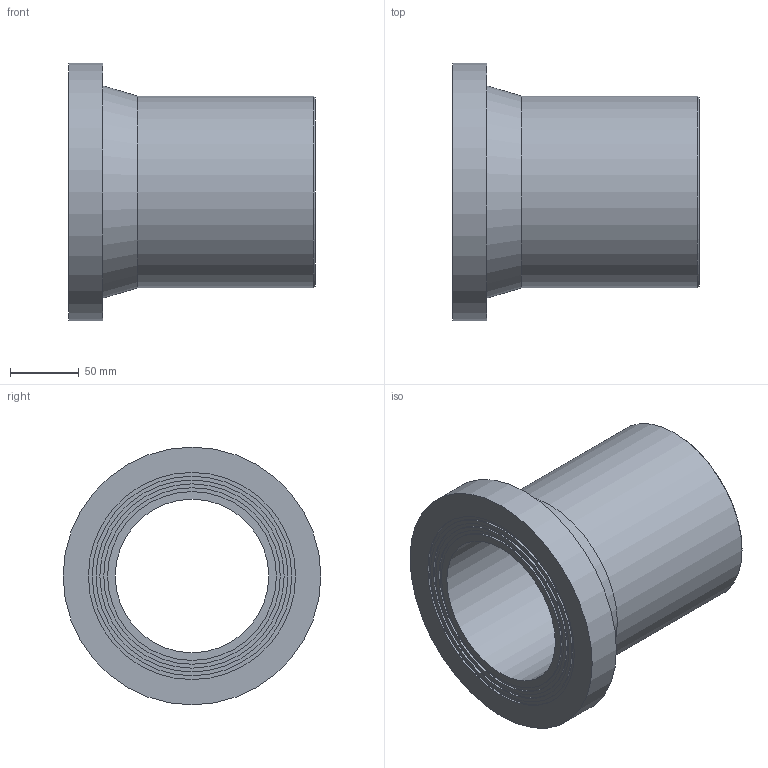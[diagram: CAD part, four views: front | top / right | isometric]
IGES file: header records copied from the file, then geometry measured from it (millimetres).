
Global section: file name: 490207140.ipt; native system: Autodesk Inventor 2015; preprocessor: unknown; author: Кирилл,,11,0; organization: 20170718.095537; date: 20190331.185821; units: millimetre
Bounding box: 180 x 188 x 188 mm (x, y, z)
Volume: 1343860.2 mm3; surface area: 182967.8 mm2
Topology: 1 solids, 1 shells, 20 faces, 33 edges, 22 vertices
Faces by surface type: plane 9, cylinder 5, revolution 4, cone 2
Full cylindrical faces by diameter (mm): 123.2 x1, 134.4 x1, 140 x1, 145.6 x1, 188 x1
